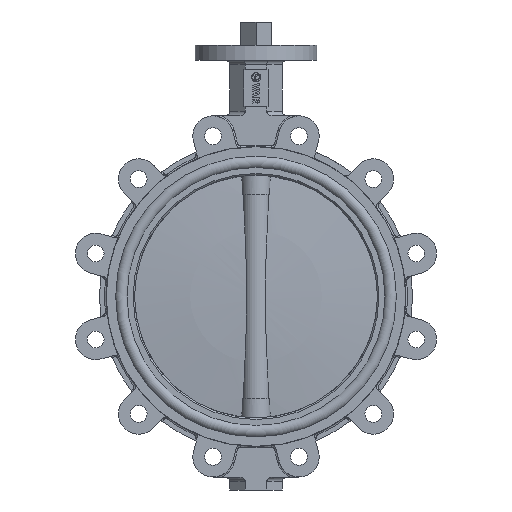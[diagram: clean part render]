
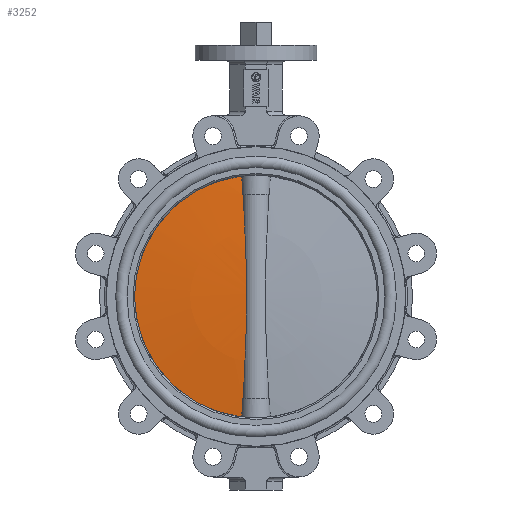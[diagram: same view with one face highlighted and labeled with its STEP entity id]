
A CAD part, left-side view. The second image highlights one B-rep face of the part: STEP entity #3252.
In plain terms, the highlighted spherical face has radius 1503.75 mm.
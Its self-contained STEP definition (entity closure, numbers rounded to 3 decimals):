
#3252=ADVANCED_FACE('',(#8154),#8156,.T.);
#8154=FACE_BOUND('',#8155,.T.);
#8155=EDGE_LOOP('',(#12356,#12357,#12358,#12359,#12360,#12361));
#8156=SPHERICAL_SURFACE('',#8157,1503.75);
#8157=AXIS2_PLACEMENT_3D('',#8158,#8159,#8160);
#8158=CARTESIAN_POINT('',(0.,-1490.25,0.));
#8159=DIRECTION('',(0.,-1.,0.));
#8160=DIRECTION('',(0.,0.,1.));
#12356=ORIENTED_EDGE('',*,*,#14132,.F.);
#12357=ORIENTED_EDGE('',*,*,#14144,.F.);
#12358=ORIENTED_EDGE('',*,*,#14145,.T.);
#12359=ORIENTED_EDGE('',*,*,#14146,.F.);
#12360=ORIENTED_EDGE('',*,*,#14115,.F.);
#12361=ORIENTED_EDGE('',*,*,#14143,.T.);
#14115=EDGE_CURVE('',#17023,#17024,#17025,.F.);
#14132=EDGE_CURVE('',#17056,#17041,#17058,.T.);
#14143=EDGE_CURVE('',#17023,#17041,#17073,.T.);
#14144=EDGE_CURVE('',#17074,#17056,#17075,.T.);
#14145=EDGE_CURVE('',#17074,#17076,#17077,.T.);
#14146=EDGE_CURVE('',#17024,#17076,#17078,.T.);
#17023=VERTEX_POINT('',#26724);
#17024=VERTEX_POINT('',#26725);
#17025=B_SPLINE_CURVE_WITH_KNOTS('',3,
(#26726,#26727,#26728,#26729,#26730,#26731,#26732,#26733),
.UNSPECIFIED.,.F.,.F.,
(4,1,1,1,1,4),
(0.,0.178,0.358,0.54,0.754,1.),
.UNSPECIFIED.);
#17041=VERTEX_POINT('',#26857);
#17056=VERTEX_POINT('',#26977);
#17058=B_SPLINE_CURVE_WITH_KNOTS('',3,
(#26982,#26983,#26984,#26985,#26986,#26987,#26988,#26989),
.UNSPECIFIED.,.F.,.F.,
(4,1,1,1,1,4),
(0.,0.178,0.358,0.54,0.754,1.),
.UNSPECIFIED.);
#17073=CIRCLE('',#27099,150.);
#17074=VERTEX_POINT('',#27103);
#17075=CIRCLE('',#27104,1498.493);
#17076=VERTEX_POINT('',#27108);
#17077=B_SPLINE_CURVE_WITH_KNOTS('',3,
(#27109,#27110,#27111,#27112,#27113,#27114,#27115,#27116,#27117,#27118,#27119,#27120,
#27121,#27122,#27123,#27124,#27125,#27126,#27127,#27128,#27129,#27130,#27131,#27132,
#27133,#27134,#27135,#27136,#27137,#27138,#27139,#27140,#27141,#27142,#27143,#27144,
#27145,#27146),
.UNSPECIFIED.,.F.,.F.,
(4,1,1,1,1,1,1,1,1,1,1,1,1,1,1,1,1,1,1,1,1,1,1,1,1,1,1,1,1,1,1,1,1,1,1,4),
(0.,0.025,0.051,0.076,0.101,0.126,
0.151,0.176,0.2,0.224,0.248,
0.272,0.296,0.319,0.354,0.401,
0.46,0.5,0.514,0.557,0.586,
0.61,0.633,0.658,0.682,0.708,
0.734,0.762,0.789,0.818,0.847,
0.877,0.907,0.938,0.969,1.),
.UNSPECIFIED.);
#17078=CIRCLE('',#27147,1498.493);
#26724=CARTESIAN_POINT('',(17.526,6.,148.973));
#26725=CARTESIAN_POINT('',(16.635,8.151,125.625));
#26726=CARTESIAN_POINT('',(16.635,8.151,125.625));
#26727=CARTESIAN_POINT('',(16.693,8.034,127.013));
#26728=CARTESIAN_POINT('',(16.807,7.795,129.8));
#26729=CARTESIAN_POINT('',(16.974,7.423,134.));
#26730=CARTESIAN_POINT('',(17.148,7.014,138.479));
#26731=CARTESIAN_POINT('',(17.334,6.543,143.475));
#26732=CARTESIAN_POINT('',(17.461,6.191,147.057));
#26733=CARTESIAN_POINT('',(17.526,6.,148.973));
#26857=CARTESIAN_POINT('',(17.526,6.,-148.973));
#26977=CARTESIAN_POINT('',(16.635,8.151,-125.625));
#26982=CARTESIAN_POINT('',(16.635,8.151,-125.625));
#26983=CARTESIAN_POINT('',(16.693,8.034,-127.013));
#26984=CARTESIAN_POINT('',(16.807,7.795,-129.8));
#26985=CARTESIAN_POINT('',(16.974,7.423,-134.));
#26986=CARTESIAN_POINT('',(17.148,7.014,-138.479));
#26987=CARTESIAN_POINT('',(17.334,6.543,-143.475));
#26988=CARTESIAN_POINT('',(17.461,6.191,-147.057));
#26989=CARTESIAN_POINT('',(17.526,6.,-148.973));
#27099=AXIS2_PLACEMENT_3D('',#27100,#27101,#27102);
#27100=CARTESIAN_POINT('',(0.,6.,0.));
#27101=DIRECTION('',(0.,1.,0.));
#27102=DIRECTION('',(0.117,0.,0.993));
#27103=CARTESIAN_POINT('',(15.737,8.161,-125.625));
#27104=AXIS2_PLACEMENT_3D('',#27105,#27106,#27107);
#27105=CARTESIAN_POINT('',(0.,-1490.25,-125.625));
#27106=DIRECTION('',(0.,0.,-1.));
#27107=DIRECTION('',(0.011,1.,0.));
#27108=CARTESIAN_POINT('',(15.737,8.161,125.625));
#27109=CARTESIAN_POINT('',(15.737,8.161,-125.625));
#27110=CARTESIAN_POINT('',(15.644,8.34,-123.501));
#27111=CARTESIAN_POINT('',(15.456,8.688,-119.258));
#27112=CARTESIAN_POINT('',(15.167,9.183,-112.902));
#27113=CARTESIAN_POINT('',(14.874,9.65,-106.571));
#27114=CARTESIAN_POINT('',(14.581,10.087,-100.264));
#27115=CARTESIAN_POINT('',(14.289,10.496,-93.996));
#27116=CARTESIAN_POINT('',(14.002,10.876,-87.765));
#27117=CARTESIAN_POINT('',(13.722,11.227,-81.585));
#27118=CARTESIAN_POINT('',(13.45,11.55,-75.443));
#27119=CARTESIAN_POINT('',(13.19,11.846,-69.351));
#27120=CARTESIAN_POINT('',(12.943,12.115,-63.309));
#27121=CARTESIAN_POINT('',(12.713,12.356,-57.343));
#27122=CARTESIAN_POINT('',(12.499,12.572,-51.441));
#27123=CARTESIAN_POINT('',(12.271,12.795,-44.58));
#27124=CARTESIAN_POINT('',(12.011,13.04,-35.721));
#27125=CARTESIAN_POINT('',(11.739,13.285,-23.856));
#27126=CARTESIAN_POINT('',(11.574,13.428,-11.612));
#27127=CARTESIAN_POINT('',(11.536,13.46,-2.111));
#27128=CARTESIAN_POINT('',(11.548,13.45,5.958));
#27129=CARTESIAN_POINT('',(11.599,13.406,13.215));
#27130=CARTESIAN_POINT('',(11.709,13.31,21.192));
#27131=CARTESIAN_POINT('',(11.829,13.204,27.619));
#27132=CARTESIAN_POINT('',(11.964,13.082,33.574));
#27133=CARTESIAN_POINT('',(12.126,12.932,39.668));
#27134=CARTESIAN_POINT('',(12.316,12.752,45.947));
#27135=CARTESIAN_POINT('',(12.532,12.539,52.396));
#27136=CARTESIAN_POINT('',(12.777,12.29,59.061));
#27137=CARTESIAN_POINT('',(13.046,12.005,65.88));
#27138=CARTESIAN_POINT('',(13.338,11.68,72.868));
#27139=CARTESIAN_POINT('',(13.65,11.314,79.996));
#27140=CARTESIAN_POINT('',(13.98,10.904,87.308));
#27141=CARTESIAN_POINT('',(14.324,10.449,94.76));
#27142=CARTESIAN_POINT('',(14.678,9.948,102.35));
#27143=CARTESIAN_POINT('',(15.035,9.4,110.033));
#27144=CARTESIAN_POINT('',(15.391,8.806,117.807));
#27145=CARTESIAN_POINT('',(15.623,8.381,123.012));
#27146=CARTESIAN_POINT('',(15.737,8.161,125.625));
#27147=AXIS2_PLACEMENT_3D('',#27148,#27149,#27150);
#27148=CARTESIAN_POINT('',(0.,-1490.25,125.625));
#27149=DIRECTION('',(0.,0.,1.));
#27150=DIRECTION('',(0.011,1.,0.));
